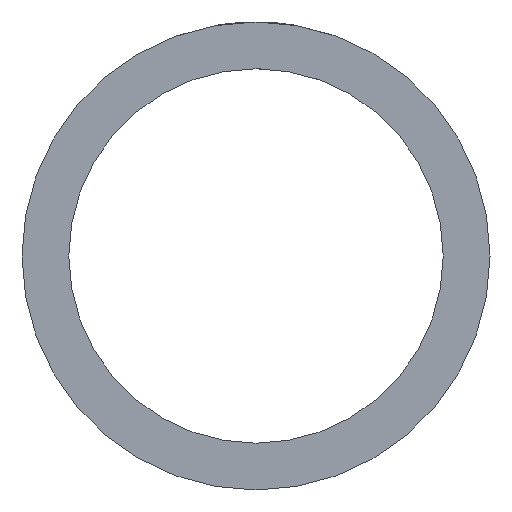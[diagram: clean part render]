
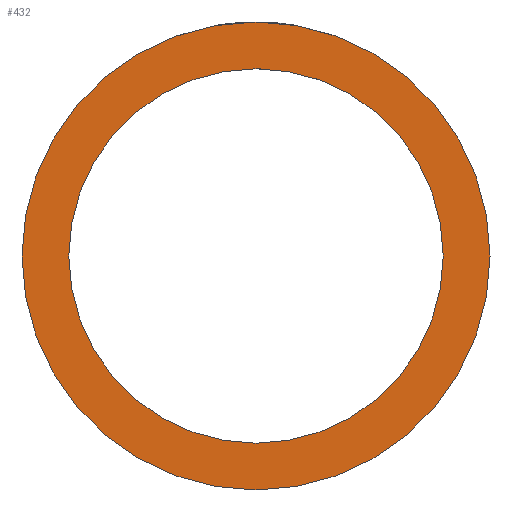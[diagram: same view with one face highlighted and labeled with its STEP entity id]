
A CAD part, left-side view. The second image highlights one B-rep face of the part: STEP entity #432.
In plain terms, the highlighted planar face has unit normal (-1, 0, 0).
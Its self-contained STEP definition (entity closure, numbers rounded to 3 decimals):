
#152=ORIENTED_EDGE('',*,*,#194,.T.);
#153=ORIENTED_EDGE('',*,*,#195,.T.);
#176=CIRCLE('',#419,15.);
#177=CIRCLE('',#420,12.);
#182=VERTEX_POINT('',#263);
#183=VERTEX_POINT('',#265);
#194=EDGE_CURVE('',#182,#182,#176,.T.);
#195=EDGE_CURVE('',#183,#183,#177,.T.);
#206=EDGE_LOOP('',(#152));
#207=EDGE_LOOP('',(#153));
#222=FACE_BOUND('',#206,.T.);
#223=FACE_BOUND('',#207,.T.);
#238=DIRECTION('',(-1.,0.,0.));
#239=DIRECTION('',(0.,1.,0.));
#240=DIRECTION('',(-1.,0.,0.));
#241=DIRECTION('',(0.,0.,15.));
#242=DIRECTION('',(1.,0.,0.));
#243=DIRECTION('',(0.,0.,12.));
#262=CARTESIAN_POINT('',(0.,0.,15.));
#263=CARTESIAN_POINT('',(0.,0.,15.));
#264=CARTESIAN_POINT('',(0.,0.,0.));
#265=CARTESIAN_POINT('',(0.,0.,12.));
#266=CARTESIAN_POINT('',(0.,0.,0.));
#418=AXIS2_PLACEMENT_3D('',#262,#238,#239);
#419=AXIS2_PLACEMENT_3D('',#264,#240,#241);
#420=AXIS2_PLACEMENT_3D('',#266,#242,#243);
#430=PLANE('',#418);
#432=ADVANCED_FACE('',(#222,#223),#430,.T.);
